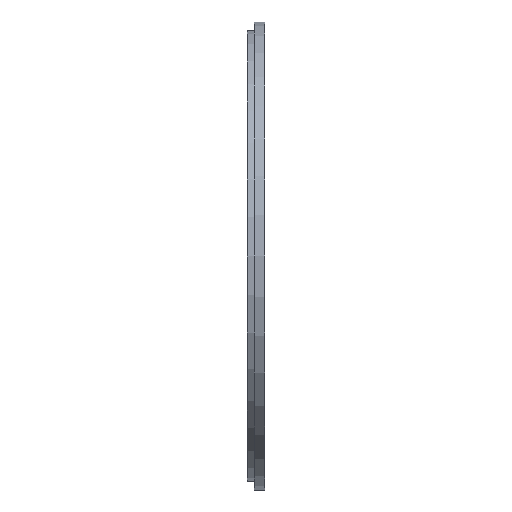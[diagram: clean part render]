
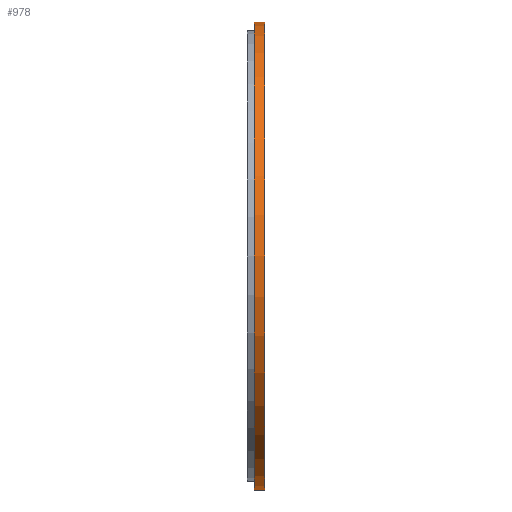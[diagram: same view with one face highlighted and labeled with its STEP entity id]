
A CAD part, left-side view. The second image highlights one B-rep face of the part: STEP entity #978.
In plain terms, the highlighted cylindrical face has radius 26.5 mm (diameter 53 mm), a partial arc.
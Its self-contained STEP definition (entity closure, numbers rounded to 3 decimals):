
#73 = DIRECTION ( 'NONE',  ( 0., 1., 0. ) ) ;
#120 = CARTESIAN_POINT ( 'NONE',  ( 0., 1.2, 26.5 ) ) ;
#291 = ORIENTED_EDGE ( 'NONE', *, *, #734, .T. ) ;
#354 = VERTEX_POINT ( 'NONE', #1622 ) ;
#412 = VECTOR ( 'NONE', #1653, 1000. ) ;
#417 = DIRECTION ( 'NONE',  ( 0., -1., 0. ) ) ;
#484 = EDGE_CURVE ( 'NONE', #1458, #1175, #1661, .T. ) ;
#513 = CIRCLE ( 'NONE', #1226, 26.5 ) ;
#524 = VERTEX_POINT ( 'NONE', #1580 ) ;
#552 = AXIS2_PLACEMENT_3D ( 'NONE', #1182, #1557, #790 ) ;
#555 = FACE_OUTER_BOUND ( 'NONE', #1506, .T. ) ;
#729 = ORIENTED_EDGE ( 'NONE', *, *, #1482, .T. ) ;
#734 = EDGE_CURVE ( 'NONE', #524, #1175, #1130, .T. ) ;
#743 = CARTESIAN_POINT ( 'NONE',  ( 0., 0., 0. ) ) ;
#790 = DIRECTION ( 'NONE',  ( 0., 0., -1. ) ) ;
#803 = AXIS2_PLACEMENT_3D ( 'NONE', #743, #73, #1121 ) ;
#840 = DIRECTION ( 'NONE',  ( 0., 0., 1. ) ) ;
#850 = VECTOR ( 'NONE', #417, 1000. ) ;
#876 = CYLINDRICAL_SURFACE ( 'NONE', #552, 26.5 ) ;
#978 = ADVANCED_FACE ( 'NONE', ( #555 ), #876, .T. ) ;
#1079 = CARTESIAN_POINT ( 'NONE',  ( 0., 0., 26.5 ) ) ;
#1121 = DIRECTION ( 'NONE',  ( 0., 0., 1. ) ) ;
#1130 = CIRCLE ( 'NONE', #803, 26.5 ) ;
#1175 = VERTEX_POINT ( 'NONE', #1079 ) ;
#1182 = CARTESIAN_POINT ( 'NONE',  ( 0., 1.2, 0. ) ) ;
#1226 = AXIS2_PLACEMENT_3D ( 'NONE', #1243, #1501, #840 ) ;
#1243 = CARTESIAN_POINT ( 'NONE',  ( 0., 1.2, 0. ) ) ;
#1293 = ORIENTED_EDGE ( 'NONE', *, *, #1309, .F. ) ;
#1309 = EDGE_CURVE ( 'NONE', #354, #1458, #513, .T. ) ;
#1391 = CARTESIAN_POINT ( 'NONE',  ( 0., 1.2, -26.5 ) ) ;
#1458 = VERTEX_POINT ( 'NONE', #1514 ) ;
#1482 = EDGE_CURVE ( 'NONE', #354, #524, #1639, .T. ) ;
#1501 = DIRECTION ( 'NONE',  ( 0., 1., 0. ) ) ;
#1506 = EDGE_LOOP ( 'NONE', ( #1632, #1293, #729, #291 ) ) ;
#1514 = CARTESIAN_POINT ( 'NONE',  ( 0., 1.2, 26.5 ) ) ;
#1557 = DIRECTION ( 'NONE',  ( 0., -1., 0. ) ) ;
#1580 = CARTESIAN_POINT ( 'NONE',  ( 0., 0., -26.5 ) ) ;
#1622 = CARTESIAN_POINT ( 'NONE',  ( 0., 1.2, -26.5 ) ) ;
#1632 = ORIENTED_EDGE ( 'NONE', *, *, #484, .F. ) ;
#1639 = LINE ( 'NONE', #1391, #412 ) ;
#1653 = DIRECTION ( 'NONE',  ( 0., -1., 0. ) ) ;
#1661 = LINE ( 'NONE', #120, #850 ) ;
